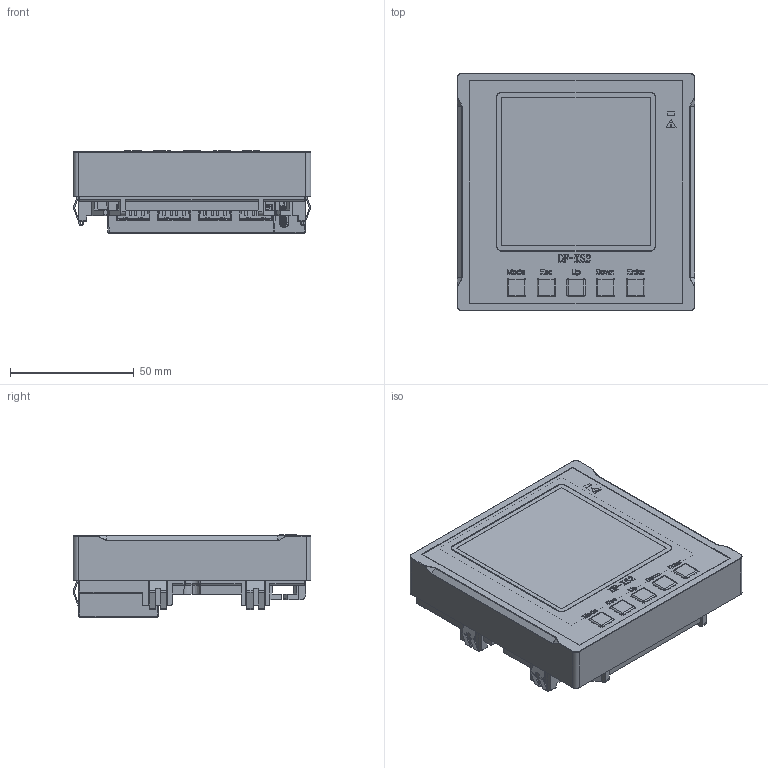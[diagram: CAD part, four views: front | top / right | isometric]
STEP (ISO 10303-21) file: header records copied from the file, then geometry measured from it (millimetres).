
FILE_DESCRIPTION (( 'STEP AP203' ), '1' );
FILE_NAME ('DF-XS2.STEP', '2021-07-07T07:00:53', ( '' ), ( '' ), 'SwSTEP 2.0', 'SolidWorks 2018', '' );
FILE_SCHEMA (( 'CONFIG_CONTROL_DESIGN' ));
Length unit declared in the file: millimetre
Products named in the file (10): 6LD.381.0005（DF-XS2）.SLDASM.STEP; 8LD.865.2239.STEP; DF-XS2; dinkle_ech350r-02p.STEP; type c9pin.STEP; GB_CROSS_SCREWS_TYPE128 ST2.9X6.5 H F-S_GB_CROSS_SCREWS_TYPE128 ST2.9X6.5 H F-S; 8LD.143.1057.STEP; 8LD.302.1145.STEP; 8LD.302.1146_8LD.302.1146.STEP; CNT-USB-4AF-TS-1500.STEP
Assembly tree (17 placements, depth 3):
  DF-XS2
    6LD.381.0005（DF-XS2）.SLDASM.STEP
      8LD.302.1145.STEP
      8LD.302.1146_8LD.302.1146.STEP
      8LD.865.2239.STEP
      CNT-USB-4AF-TS-1500.STEP  x4
      type c9pin.STEP
      dinkle_ech350r-02p.STEP
      8LD.143.1057.STEP  x5
    GB_CROSS_SCREWS_TYPE128 ST2.9X6.5 H F-S_GB_CROSS_SCREWS_TYPE128 ST2.9X6.5 H F-S  x2
Bounding box: 96 x 96.1 x 33.35 mm (x, y, z)
Volume: 48124.1 mm3; surface area: 86031.2 mm2
Topology: 37 solids, 37 shells, 5963 faces, 16169 edges, 10267 vertices
Faces by surface type: plane 4295, cylinder 1215, bspline 279, cone 150, sphere 13, torus 11
Entity records: 143849 total; most frequent: CARTESIAN_POINT 36327, ORIENTED_EDGE 23400, DIRECTION 20097, EDGE_CURVE 11700, VECTOR 9175, LINE 9175, VERTEX_POINT 7591, AXIS2_PLACEMENT_3D 5461
